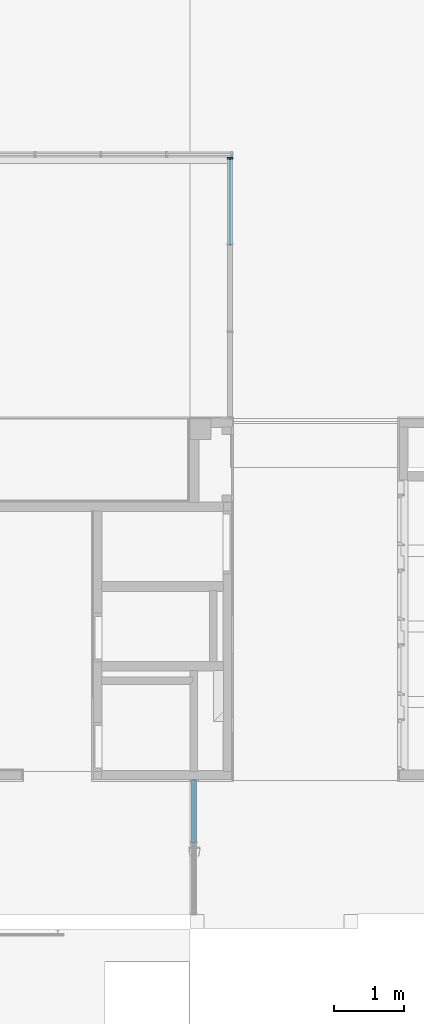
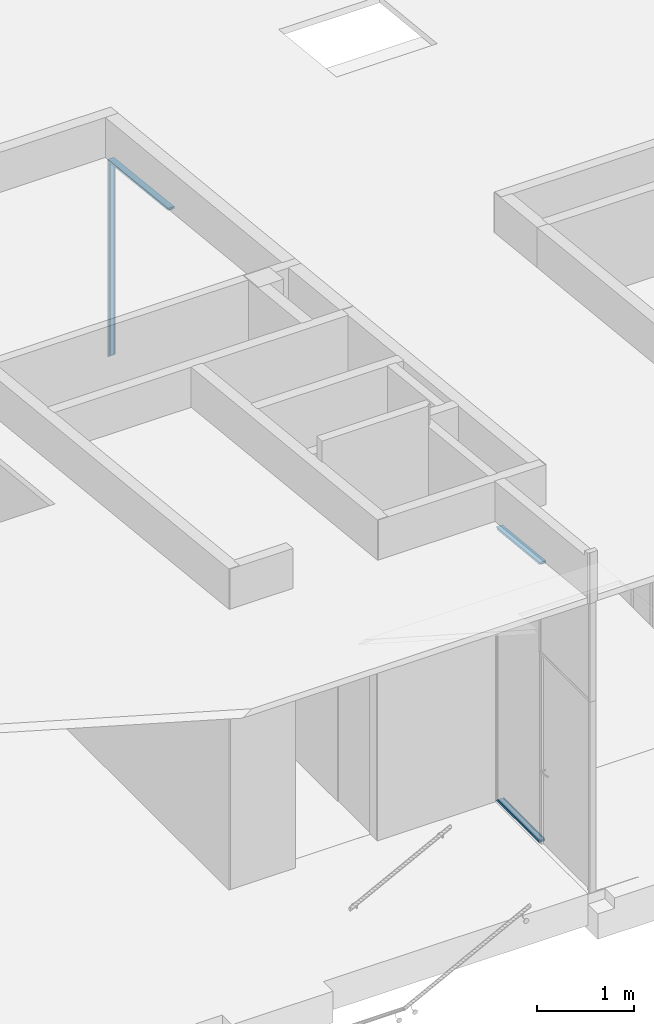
# One storey, part 20 of 43: 4 members, 2 elements without a shape of their own.
"""IFC2X3 building model written with IfcOpenShell, lengths in millimetres."""

from ifc_helpers import new_model, entity, si_unit, converted_unit, derived_unit, money_unit, direction, frame, origin_with_axes, place, context, subcontext, project, spatial, faceted_brep, material, material_list, type_object, element, aggregate, save


model = new_model("IFC2X3")

# Units and contexts
model_context = context("Model", 3, precision=0.01, world=origin_with_axes(), true_north=direction((0.0, 1.0)))
body_context = subcontext(model_context, "Body", "Model", "MODEL_VIEW")
ifc_project = project(units=[si_unit("LENGTHUNIT", "METRE", prefix="MILLI"), si_unit("AREAUNIT", "SQUARE_METRE"), si_unit("VOLUMEUNIT", "CUBIC_METRE"), converted_unit("PLANEANGLEUNIT", "DEGREE", entity("IfcPlaneAngleMeasure", 0.0174532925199), si_unit("PLANEANGLEUNIT", "RADIAN"), dimensions=[0, 0, 0, 0, 0, 0, 0]), si_unit("SOLIDANGLEUNIT", "STERADIAN"), money_unit("EUR"), converted_unit("TIMEUNIT", "Year", entity("IfcTimeMeasure", 31556926.0), si_unit("TIMEUNIT", "SECOND"), dimensions=[0, 0, 1, 0, 0, 0, 0]), si_unit("MASSUNIT", "GRAM", prefix="KILO"), si_unit("THERMODYNAMICTEMPERATUREUNIT", "DEGREE_CELSIUS"), si_unit("LUMINOUSINTENSITYUNIT", "LUMEN"), si_unit("ENERGYUNIT", "JOULE", prefix="MEGA"), derived_unit("THERMALCONDUCTANCEUNIT", [(si_unit("POWERUNIT", "WATT"), 1), (si_unit("LENGTHUNIT", "METRE"), -1), (si_unit("THERMODYNAMICTEMPERATUREUNIT", "KELVIN"), -1)]), derived_unit("SPECIFICHEATCAPACITYUNIT", [(si_unit("ENERGYUNIT", "JOULE"), 1), (si_unit("MASSUNIT", "GRAM", prefix="KILO"), -1), (si_unit("THERMODYNAMICTEMPERATUREUNIT", "KELVIN"), -1)]), derived_unit("MASSDENSITYUNIT", [(si_unit("MASSUNIT", "GRAM", prefix="KILO"), 1), (si_unit("VOLUMEUNIT", "CUBIC_METRE"), -1)])], contexts=[model_context])

# Site, building, storey
site_placement = place(None, origin_with_axes())
site = spatial("IfcSite", under=ifc_project, at=site_placement, Name="L.Koidula tn 11b", CompositionType="ELEMENT")
building_placement = place(site_placement, origin_with_axes())
building = spatial("IfcBuilding", under=site, at=building_placement, Name="Rakvere Riigigümnaasium", CompositionType="ELEMENT")
storey_placement = place(building_placement, frame((0.0, 0.0, 6665.0), z_axis=(0.0, 0.0, 1.0), x_axis=(1.0, 0.0, 0.0)))
storey = spatial("IfcBuildingStorey", under=building, at=storey_placement, Name="3.korrus +6,66", CompositionType="ELEMENT", Elevation=6665.0)

# Curtain wall, members
curtain_wall_type = type_object("IfcCurtainWallType", Name="Curtain Wall Type", PredefinedType="NOTDEFINED")
curtain_wall_1_placement = place(storey_placement, frame((47567.9999955, 27513.9554945, 0.0), z_axis=(0.0, 0.0, 1.0), x_axis=(1.0, 0.0, 0.0)))
curtain_wall_1 = element("IfcCurtainWall", 1, at=curtain_wall_1_placement, inside=storey, type_object=curtain_wall_type, Name="SKLF-27")
ifc_material_1 = material(Name="Klaasvill")
ifc_material_2 = material(Name="Teras RAL7012")
ifc_material_list = material_list([ifc_material_1, ifc_material_2])
member_type = type_object("IfcMemberType", Name="Boundary Frame 30 x 42", PredefinedType="MULLION")
member_1_placement = place(curtain_wall_1_placement, frame((0.0, -622.5, 2624.63007534), z_axis=(0.0, 0.994032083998, -0.109088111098), x_axis=(0.0, -0.109088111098, -0.994032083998)))
member_1 = element("IfcMember", 2, at=member_1_placement, type_object=member_type, material=ifc_material_list, Name="SKLF-07-raam", ObjectType="MULLION", context=body_context, shape_type="Brep", body=[
    faceted_brep([(7.49999990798, 15.000000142, -1.89357405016e-07), (13.8499999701, 15.000000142, -1.89357405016e-07), (13.8499999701, 15.000000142, 1240.06145295), (7.49999990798, 15.000000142, 1245.75270844), (7.49999990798, 29.0161444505, -1.89357405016e-07), (13.8499999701, 29.0161444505, -1.89357405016e-07), (13.8499999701, 29.0161444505, 1240.06145295), (7.49999990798, 29.0161444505, 1245.75270844)], [[[0, 1, 2, 3]], [[0, 4, 5, 1]], [[1, 5, 6, 2]], [[3, 2, 6, 7]], [[4, 0, 3, 7]], [[5, 4, 7, 6]]]),
    faceted_brep([(24.987414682, 29.0161444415, -1.89357405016e-07), (25.004489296, 27.0307503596, -1.89357405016e-07), (25.004489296, 27.0307503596, 1230.06412257), (24.987414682, 29.0161444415, 1230.07942588), (28.5126239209, 29.0161444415, -1.89357405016e-07), (28.7655837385, 28.0385325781, -1.89357405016e-07), (28.4955493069, 27.0307503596, -1.89357405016e-07), (27.75780152, 26.2930025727, -1.89357405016e-07), (26.7500193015, 26.0229681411, -1.89357405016e-07), (25.742237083, 26.2930025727, -1.89357405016e-07), (25.742237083, 26.2930025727, 1229.40290822), (26.7500193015, 26.0229681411, 1228.49967263), (27.75780152, 26.2930025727, 1227.59643704), (28.4955493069, 27.0307503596, 1226.93522269), (28.7655837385, 28.0385325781, 1226.69320144), (28.5126239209, 29.0161444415, 1226.91991939)], [[[0, 1, 2, 3]], [[0, 4, 5, 6, 7, 8, 9, 1]], [[1, 9, 10, 2]], [[3, 2, 10, 11, 12, 13, 14, 15]], [[4, 0, 3, 15]], [[5, 4, 15, 14]], [[6, 5, 14, 13]], [[7, 6, 13, 12]], [[8, 7, 12, 11]], [[9, 8, 11, 10]]]),
    faceted_brep([(7.49999990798, -24.9999997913, -1.89357405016e-07), (7.49999990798, -39.0161445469, -1.89357405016e-07), (7.49999990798, -39.0161445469, 1245.75270844), (7.49999990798, -24.9999997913, 1245.75270844), (13.8499999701, -24.9999997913, -1.89357405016e-07), (13.8499999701, -39.0161445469, -1.89357405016e-07), (13.8499999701, -39.0161445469, 1240.06145295), (13.8499999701, -24.9999997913, 1240.06145295)], [[[0, 1, 2, 3]], [[0, 4, 5, 1]], [[1, 5, 6, 2]], [[3, 2, 6, 7]], [[4, 0, 3, 7]], [[5, 4, 7, 6]]]),
    faceted_brep([(25.004489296, -37.0307503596, -1.89357405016e-07), (24.987414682, -39.0161444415, -1.89357405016e-07), (24.987414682, -39.0161444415, 1230.07942588), (25.004489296, -37.0307503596, 1230.06412257), (25.742237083, -36.2930025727, -1.89357405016e-07), (26.7500193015, -36.0229681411, -1.89357405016e-07), (27.75780152, -36.2930025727, -1.89357405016e-07), (28.4955493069, -37.0307503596, -1.89357405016e-07), (28.7655837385, -38.0385325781, -1.89357405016e-07), (28.5126239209, -39.0161444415, -1.89357405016e-07), (28.5126239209, -39.0161444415, 1226.91991939), (28.7655837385, -38.0385325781, 1226.69320144), (28.4955493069, -37.0307503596, 1226.93522269), (27.75780152, -36.2930025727, 1227.59643704), (26.7500193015, -36.0229681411, 1228.49967263), (25.742237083, -36.2930025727, 1229.40290822)], [[[0, 1, 2, 3]], [[0, 4, 5, 6, 7, 8, 9, 1]], [[1, 9, 10, 2]], [[3, 2, 10, 11, 12, 13, 14, 15]], [[4, 0, 3, 15]], [[5, 4, 15, 14]], [[6, 5, 14, 13]], [[7, 6, 13, 12]], [[8, 7, 12, 11]], [[9, 8, 11, 10]]]),
    faceted_brep([(0.0, -22.0000000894, -1.89357405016e-07), (29.5999996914, -22.0000000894, -1.89357405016e-07), (29.5999996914, -22.0000000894, 1225.94534722), (0.0, -22.0000000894, 1252.47466359), (0.0, 12.0000000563, -1.89357405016e-07), (29.5999996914, 12.0000000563, -1.89357405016e-07), (1.9999999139, 10.0000001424, -1.89357405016e-07), (1.9999999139, -20.0000001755, -1.89357405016e-07), (18.7999996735, -20.0000001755, -1.89357405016e-07), (18.7999996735, 10.0000001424, -1.89357405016e-07), (29.5999996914, 12.0000000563, 1225.94534722), (0.0, 12.0000000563, 1252.47466359), (1.9999999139, 10.0000001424, 1250.68214227), (18.7999996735, 10.0000001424, 1235.62496277), (18.7999996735, -20.0000001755, 1235.62496277), (1.9999999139, -20.0000001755, 1250.68214227)], [[[0, 1, 2, 3]], [[0, 4, 5, 1], [6, 7, 8, 9]], [[1, 5, 10, 2]], [[3, 2, 10, 11], [12, 13, 14, 15]], [[4, 0, 3, 11]], [[5, 4, 11, 10]], [[7, 6, 12, 15]], [[8, 7, 15, 14]], [[9, 8, 14, 13]], [[6, 9, 13, 12]]]),
    faceted_brep([(0.0, 12.0, -1.89357405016e-07), (29.5999996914, 12.0000000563, -1.89357405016e-07), (29.5999996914, 12.0000000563, 1225.94534722), (0.0, 12.0, 1252.47466359), (0.0, 32.0, -1.89357405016e-07), (30.0000193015, 32.0, -1.89357405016e-07), (30.0000193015, 29.0161444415, -1.89357405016e-07), (28.5126239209, 29.0161444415, -1.89357405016e-07), (24.987414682, 29.0161444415, -1.89357405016e-07), (13.8499999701, 29.0161444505, -1.89357405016e-07), (7.49999999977, 29.0161444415, -1.89357405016e-07), (7.49999999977, 15.0, -1.89357405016e-07), (13.8499999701, 15.000000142, -1.89357405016e-07), (30.0000193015, 15.0, -1.89357405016e-07), (30.0000193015, 12.0, -1.89357405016e-07), (30.0000193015, 12.0, 1225.58682536), (30.0000193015, 15.0, 1225.58682536), (13.8499999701, 15.000000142, 1240.06145295), (7.49999999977, 15.0, 1245.75270836), (7.49999999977, 29.0161444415, 1245.75270836), (13.8499999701, 29.0161444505, 1240.06145295), (24.987414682, 29.0161444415, 1230.07942588), (28.5126239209, 29.0161444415, 1226.91991939), (30.0000193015, 29.0161444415, 1225.58682536), (30.0000193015, 32.0, 1225.58682536), (0.0, 32.0, 1252.47466359)], [[[0, 1, 2, 3]], [[0, 4, 5, 6, 7, 8, 9, 10, 11, 12, 13, 14, 1]], [[1, 14, 15, 2]], [[3, 2, 15, 16, 17, 18, 19, 20, 21, 22, 23, 24, 25]], [[4, 0, 3, 25]], [[5, 4, 25, 24]], [[6, 5, 24, 23]], [[7, 6, 23, 22]], [[8, 7, 22, 21]], [[9, 8, 21, 20]], [[10, 9, 20, 19]], [[11, 10, 19, 18]], [[12, 11, 18, 17]], [[13, 12, 17, 16]], [[14, 13, 16, 15]]]),
    faceted_brep([(0.0, -22.0, -1.89357405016e-07), (0.0, -42.0, -1.89357405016e-07), (0.0, -42.0, 1252.47466359), (0.0, -22.0, 1252.47466359), (29.5999996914, -22.0000000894, -1.89357405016e-07), (30.0000193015, -22.0, -1.89357405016e-07), (30.0000193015, -25.0, -1.89357405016e-07), (13.8499999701, -24.9999997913, -1.89357405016e-07), (7.49999999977, -25.0, -1.89357405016e-07), (7.49999999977, -39.0161444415, -1.89357405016e-07), (13.8499999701, -39.0161445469, -1.89357405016e-07), (24.987414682, -39.0161444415, -1.89357405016e-07), (28.5126239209, -39.0161444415, -1.89357405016e-07), (30.0000193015, -39.0161444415, -1.89357405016e-07), (30.0000193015, -42.0, -1.89357405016e-07), (30.0000193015, -42.0, 1225.58682536), (30.0000193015, -39.0161444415, 1225.58682536), (28.5126239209, -39.0161444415, 1226.91991939), (24.987414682, -39.0161444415, 1230.07942588), (13.8499999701, -39.0161445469, 1240.06145295), (7.49999999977, -39.0161444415, 1245.75270836), (7.49999999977, -25.0, 1245.75270836), (13.8499999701, -24.9999997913, 1240.06145295), (30.0000193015, -25.0, 1225.58682536), (30.0000193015, -22.0, 1225.58682536), (29.5999996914, -22.0000000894, 1225.94534722)], [[[0, 1, 2, 3]], [[0, 4, 5, 6, 7, 8, 9, 10, 11, 12, 13, 14, 1]], [[1, 14, 15, 2]], [[3, 2, 15, 16, 17, 18, 19, 20, 21, 22, 23, 24, 25]], [[4, 0, 3, 25]], [[5, 4, 25, 24]], [[6, 5, 24, 23]], [[7, 6, 23, 22]], [[8, 7, 22, 21]], [[9, 8, 21, 20]], [[10, 9, 20, 19]], [[11, 10, 19, 18]], [[12, 11, 18, 17]], [[13, 12, 17, 16]], [[14, 13, 16, 15]]]),
])
member_2_placement = place(curtain_wall_1_placement, frame((0.0, 622.5, 0.0), z_axis=(0.0, 0.0, 1.0), x_axis=(0.0, 1.0, 0.0)))
member_2 = element("IfcMember", 3, at=member_2_placement, type_object=member_type, material=ifc_material_list, Name="SKLF-00-raam", ObjectType="MULLION", context=body_context, shape_type="Brep", body=[
    faceted_brep([(-13.8499999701, 15.000000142, 13.8499999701), (-7.49999990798, 15.000000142, 7.49999990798), (-7.49999990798, 15.000000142, 2481.27802494), (-13.8499999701, 15.000000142, 2475.58676946), (-13.8499999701, 29.0161444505, 13.8499999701), (-7.49999990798, 29.0161444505, 7.49999990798), (-7.49999990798, 29.0161444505, 2481.27802494), (-13.8499999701, 29.0161444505, 2475.58676946)], [[[0, 1, 2, 3]], [[1, 0, 4, 5]], [[1, 5, 6, 2]], [[2, 6, 7, 3]], [[4, 0, 3, 7]], [[5, 4, 7, 6]]]),
    faceted_brep([(-25.004489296, 27.0307503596, 25.004489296), (-24.987414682, 29.0161444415, 24.987414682), (-24.987414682, 29.0161444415, 2465.60474238), (-25.004489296, 27.0307503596, 2465.58943908), (-25.742237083, 26.2930025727, 25.742237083), (-26.7500193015, 26.0229681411, 26.7500193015), (-27.75780152, 26.2930025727, 27.75780152), (-28.4955493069, 27.0307503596, 28.4955493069), (-28.7655837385, 28.0385325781, 28.7655837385), (-28.5126239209, 29.0161444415, 28.5126239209), (-28.5126239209, 29.0161444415, 2462.44523589), (-28.7655837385, 28.0385325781, 2462.21851795), (-28.4955493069, 27.0307503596, 2462.4605392), (-27.75780152, 26.2930025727, 2463.12175354), (-26.7500193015, 26.0229681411, 2464.02498914), (-25.742237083, 26.2930025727, 2464.92822473)], [[[0, 1, 2, 3]], [[1, 0, 4, 5, 6, 7, 8, 9]], [[1, 9, 10, 2]], [[2, 10, 11, 12, 13, 14, 15, 3]], [[4, 0, 3, 15]], [[5, 4, 15, 14]], [[6, 5, 14, 13]], [[7, 6, 13, 12]], [[8, 7, 12, 11]], [[9, 8, 11, 10]]]),
    faceted_brep([(-7.49999990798, -39.0161445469, 7.49999990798), (-7.49999990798, -24.9999997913, 7.49999990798), (-7.49999990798, -24.9999997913, 2481.27802494), (-7.49999990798, -39.0161445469, 2481.27802494), (-13.8499999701, -39.0161445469, 13.8499999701), (-13.8499999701, -24.9999997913, 13.8499999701), (-13.8499999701, -24.9999997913, 2475.58676946), (-13.8499999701, -39.0161445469, 2475.58676946)], [[[0, 1, 2, 3]], [[1, 0, 4, 5]], [[1, 5, 6, 2]], [[2, 6, 7, 3]], [[4, 0, 3, 7]], [[5, 4, 7, 6]]]),
    faceted_brep([(-24.987414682, -39.0161444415, 24.987414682), (-25.004489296, -37.0307503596, 25.004489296), (-25.004489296, -37.0307503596, 2465.58943908), (-24.987414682, -39.0161444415, 2465.60474238), (-28.5126239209, -39.0161444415, 28.5126239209), (-28.7655837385, -38.0385325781, 28.7655837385), (-28.4955493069, -37.0307503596, 28.4955493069), (-27.75780152, -36.2930025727, 27.75780152), (-26.7500193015, -36.0229681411, 26.7500193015), (-25.742237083, -36.2930025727, 25.742237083), (-25.742237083, -36.2930025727, 2464.92822473), (-26.7500193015, -36.0229681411, 2464.02498914), (-27.75780152, -36.2930025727, 2463.12175354), (-28.4955493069, -37.0307503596, 2462.4605392), (-28.7655837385, -38.0385325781, 2462.21851795), (-28.5126239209, -39.0161444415, 2462.44523589)], [[[0, 1, 2, 3]], [[1, 0, 4, 5, 6, 7, 8, 9]], [[1, 9, 10, 2]], [[2, 10, 11, 12, 13, 14, 15, 3]], [[4, 0, 3, 15]], [[5, 4, 15, 14]], [[6, 5, 14, 13]], [[7, 6, 13, 12]], [[8, 7, 12, 11]], [[9, 8, 11, 10]]]),
    faceted_brep([(-29.5999996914, -22.0000000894, 29.5999996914), (0.0, -22.0000000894, 0.0), (0.0, -22.0000000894, 2487.99998009), (-29.5999996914, -22.0000000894, 2461.47066372), (-29.5999996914, 12.0000000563, 29.5999996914), (0.0, 12.0000000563, 0.0), (-1.9999999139, 10.0000001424, 1.9999999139), (-18.7999996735, 10.0000001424, 18.7999996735), (-18.7999996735, -20.0000001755, 18.7999996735), (-1.9999999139, -20.0000001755, 1.9999999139), (0.0, 12.0000000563, 2487.99998009), (-29.5999996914, 12.0000000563, 2461.47066372), (-1.9999999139, 10.0000001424, 2486.20745877), (-1.9999999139, -20.0000001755, 2486.20745877), (-18.7999996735, -20.0000001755, 2471.15027927), (-18.7999996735, 10.0000001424, 2471.15027927)], [[[0, 1, 2, 3]], [[1, 0, 4, 5], [6, 7, 8, 9]], [[1, 5, 10, 2]], [[2, 10, 11, 3], [12, 13, 14, 15]], [[4, 0, 3, 11]], [[5, 4, 11, 10]], [[7, 6, 12, 15]], [[8, 7, 15, 14]], [[9, 8, 14, 13]], [[6, 9, 13, 12]]]),
    faceted_brep([(-29.5999996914, 12.0000000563, 29.5999996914), (0.0, 12.0, 0.0), (0.0, 12.0, 2487.99998009), (-29.5999996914, 12.0000000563, 2461.47066372), (-30.0000193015, 12.0, 30.0000193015), (-30.0000193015, 15.0, 30.0000193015), (-13.8499999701, 15.000000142, 13.8499999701), (-7.49999999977, 15.0, 7.49999999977), (-7.49999999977, 29.0161444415, 7.49999999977), (-13.8499999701, 29.0161444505, 13.8499999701), (-24.987414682, 29.0161444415, 24.987414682), (-28.5126239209, 29.0161444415, 28.5126239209), (-30.0000193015, 29.0161444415, 30.0000193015), (-30.0000193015, 32.0, 30.0000193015), (0.0, 32.0, 0.0), (0.0, 32.0, 2487.99998009), (-30.0000193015, 32.0, 2461.11214187), (-30.0000193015, 29.0161444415, 2461.11214187), (-28.5126239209, 29.0161444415, 2462.44523589), (-24.987414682, 29.0161444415, 2465.60474238), (-13.8499999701, 29.0161444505, 2475.58676946), (-7.49999999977, 29.0161444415, 2481.27802486), (-7.49999999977, 15.0, 2481.27802486), (-13.8499999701, 15.000000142, 2475.58676946), (-30.0000193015, 15.0, 2461.11214187), (-30.0000193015, 12.0, 2461.11214187)], [[[0, 1, 2, 3]], [[1, 0, 4, 5, 6, 7, 8, 9, 10, 11, 12, 13, 14]], [[1, 14, 15, 2]], [[2, 15, 16, 17, 18, 19, 20, 21, 22, 23, 24, 25, 3]], [[4, 0, 3, 25]], [[5, 4, 25, 24]], [[6, 5, 24, 23]], [[7, 6, 23, 22]], [[8, 7, 22, 21]], [[9, 8, 21, 20]], [[10, 9, 20, 19]], [[11, 10, 19, 18]], [[12, 11, 18, 17]], [[13, 12, 17, 16]], [[14, 13, 16, 15]]]),
    faceted_brep([(0.0, -42.0, 0.0), (0.0, -22.0, 0.0), (0.0, -22.0, 2487.99998009), (0.0, -42.0, 2487.99998009), (-30.0000193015, -42.0, 30.0000193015), (-30.0000193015, -39.0161444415, 30.0000193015), (-28.5126239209, -39.0161444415, 28.5126239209), (-24.987414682, -39.0161444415, 24.987414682), (-13.8499999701, -39.0161445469, 13.8499999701), (-7.49999999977, -39.0161444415, 7.49999999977), (-7.49999999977, -25.0, 7.49999999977), (-13.8499999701, -24.9999997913, 13.8499999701), (-30.0000193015, -25.0, 30.0000193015), (-30.0000193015, -22.0, 30.0000193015), (-29.5999996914, -22.0000000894, 29.5999996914), (-29.5999996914, -22.0000000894, 2461.47066372), (-30.0000193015, -22.0, 2461.11214187), (-30.0000193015, -25.0, 2461.11214187), (-13.8499999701, -24.9999997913, 2475.58676946), (-7.49999999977, -25.0, 2481.27802486), (-7.49999999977, -39.0161444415, 2481.27802486), (-13.8499999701, -39.0161445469, 2475.58676946), (-24.987414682, -39.0161444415, 2465.60474238), (-28.5126239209, -39.0161444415, 2462.44523589), (-30.0000193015, -39.0161444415, 2461.11214187), (-30.0000193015, -42.0, 2461.11214187)], [[[0, 1, 2, 3]], [[1, 0, 4, 5, 6, 7, 8, 9, 10, 11, 12, 13, 14]], [[1, 14, 15, 2]], [[2, 15, 16, 17, 18, 19, 20, 21, 22, 23, 24, 25, 3]], [[4, 0, 3, 25]], [[5, 4, 25, 24]], [[6, 5, 24, 23]], [[7, 6, 23, 22]], [[8, 7, 22, 21]], [[9, 8, 21, 20]], [[10, 9, 20, 19]], [[11, 10, 19, 18]], [[12, 11, 18, 17]], [[13, 12, 17, 16]], [[14, 13, 16, 15]]]),
])
aggregate(curtain_wall_1, [member_1, member_2])

curtain_wall_2_placement = place(storey_placement, frame((47063.0738161, 17825.4555095, 0.0), z_axis=(0.0, 0.0, 1.0), x_axis=(1.0, 0.0, 0.0)))
curtain_wall_2 = element("IfcCurtainWall", 4, at=curtain_wall_2_placement, inside=storey, type_object=curtain_wall_type, Name="SKLF-24")
member_3_placement = place(curtain_wall_2_placement, frame((0.0, 532.000005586, 0.0), z_axis=(0.0, 1.0, 0.0), x_axis=(0.0, 0.0, 1.0)))
member_3 = element("IfcMember", 5, at=member_3_placement, type_object=member_type, material=ifc_material_list, Name="SKLF-16-raam", ObjectType="MULLION", context=body_context, shape_type="Brep", body=[
    faceted_brep([(7.49999990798, 15.000000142, 0.0), (13.8499999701, 15.000000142, 0.0), (13.8499999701, 15.000000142, 869.134185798), (7.49999990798, 15.000000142, 875.484185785), (7.49999990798, 29.0161444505, 0.0), (13.8499999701, 29.0161444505, 0.0), (13.8499999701, 29.0161444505, 869.134185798), (7.49999990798, 29.0161444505, 875.484185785)], [[[0, 1, 2, 3]], [[0, 4, 5, 1]], [[1, 5, 6, 2]], [[3, 2, 6, 7]], [[4, 0, 3, 7]], [[5, 4, 7, 6]]]),
    faceted_brep([(24.987414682, 29.0161444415, 0.0), (25.004489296, 27.0307503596, 0.0), (25.004489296, 27.0307503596, 857.979696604), (24.987414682, 29.0161444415, 857.996771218), (28.5126239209, 29.0161444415, 0.0), (28.7655837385, 28.0385325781, 0.0), (28.4955493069, 27.0307503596, 0.0), (27.75780152, 26.2930025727, 0.0), (26.7500193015, 26.0229681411, 0.0), (25.742237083, 26.2930025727, 0.0), (25.742237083, 26.2930025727, 857.241948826), (26.7500193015, 26.0229681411, 856.234166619), (27.75780152, 26.2930025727, 855.226384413), (28.4955493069, 27.0307503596, 854.488636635), (28.7655837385, 28.0385325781, 854.218602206), (28.5126239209, 29.0161444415, 854.471562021)], [[[0, 1, 2, 3]], [[0, 4, 5, 6, 7, 8, 9, 1]], [[1, 9, 10, 2]], [[3, 2, 10, 11, 12, 13, 14, 15]], [[4, 0, 3, 15]], [[5, 4, 15, 14]], [[6, 5, 14, 13]], [[7, 6, 13, 12]], [[8, 7, 12, 11]], [[9, 8, 11, 10]]]),
    faceted_brep([(7.49999990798, -24.9999997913, 0.0), (7.49999990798, -39.0161445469, 0.0), (7.49999990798, -39.0161445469, 875.484185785), (7.49999990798, -24.9999997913, 875.484185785), (13.8499999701, -24.9999997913, 0.0), (13.8499999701, -39.0161445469, 0.0), (13.8499999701, -39.0161445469, 869.134185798), (13.8499999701, -24.9999997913, 869.134185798)], [[[0, 1, 2, 3]], [[0, 4, 5, 1]], [[1, 5, 6, 2]], [[3, 2, 6, 7]], [[4, 0, 3, 7]], [[5, 4, 7, 6]]]),
    faceted_brep([(25.004489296, -37.0307503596, 0.0), (24.987414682, -39.0161444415, 0.0), (24.987414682, -39.0161444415, 857.996771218), (25.004489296, -37.0307503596, 857.979696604), (25.742237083, -36.2930025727, 0.0), (26.7500193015, -36.0229681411, 0.0), (27.75780152, -36.2930025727, 0.0), (28.4955493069, -37.0307503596, 0.0), (28.7655837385, -38.0385325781, 0.0), (28.5126239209, -39.0161444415, 0.0), (28.5126239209, -39.0161444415, 854.471562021), (28.7655837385, -38.0385325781, 854.218602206), (28.4955493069, -37.0307503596, 854.488636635), (27.75780152, -36.2930025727, 855.226384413), (26.7500193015, -36.0229681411, 856.234166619), (25.742237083, -36.2930025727, 857.241948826)], [[[0, 1, 2, 3]], [[0, 4, 5, 6, 7, 8, 9, 1]], [[1, 9, 10, 2]], [[3, 2, 10, 11, 12, 13, 14, 15]], [[4, 0, 3, 15]], [[5, 4, 15, 14]], [[6, 5, 14, 13]], [[7, 6, 13, 12]], [[8, 7, 12, 11]], [[9, 8, 11, 10]]]),
    faceted_brep([(0.0, -22.0000000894, 0.0), (29.5999996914, -22.0000000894, 0.0), (29.5999996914, -22.0000000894, 853.384186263), (0.0, -22.0000000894, 882.984185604), (0.0, 12.0000000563, 0.0), (29.5999996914, 12.0000000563, 0.0), (1.9999999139, 10.0000001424, 0.0), (1.9999999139, -20.0000001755, 0.0), (18.7999996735, -20.0000001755, 0.0), (18.7999996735, 10.0000001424, 0.0), (29.5999996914, 12.0000000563, 853.384186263), (0.0, 12.0000000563, 882.984185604), (1.9999999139, 10.0000001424, 880.984185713), (18.7999996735, 10.0000001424, 864.184186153), (18.7999996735, -20.0000001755, 864.184186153), (1.9999999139, -20.0000001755, 880.984185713)], [[[0, 1, 2, 3]], [[0, 4, 5, 1], [6, 7, 8, 9]], [[1, 5, 10, 2]], [[3, 2, 10, 11], [12, 13, 14, 15]], [[4, 0, 3, 11]], [[5, 4, 11, 10]], [[7, 6, 12, 15]], [[8, 7, 15, 14]], [[9, 8, 14, 13]], [[6, 9, 13, 12]]]),
    faceted_brep([(0.0, 12.0, 0.0), (29.5999996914, 12.0000000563, 0.0), (29.5999996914, 12.0000000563, 853.384186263), (0.0, 12.0, 882.984185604), (0.0, 32.0, 0.0), (30.0000193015, 32.0, 0.0), (30.0000193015, 29.0161444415, 0.0), (28.5126239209, 29.0161444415, 0.0), (24.987414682, 29.0161444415, 0.0), (13.8499999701, 29.0161444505, 0.0), (7.49999999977, 29.0161444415, 0.0), (7.49999999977, 15.0, 0.0), (13.8499999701, 15.000000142, 0.0), (30.0000193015, 15.0, 0.0), (30.0000193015, 12.0, 0.0), (30.0000193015, 12.0, 852.984166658), (30.0000193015, 15.0, 852.984166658), (13.8499999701, 15.000000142, 869.134185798), (7.49999999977, 15.0, 875.484185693), (7.49999999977, 29.0161444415, 875.484185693), (13.8499999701, 29.0161444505, 869.134185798), (24.987414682, 29.0161444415, 857.996771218), (28.5126239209, 29.0161444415, 854.471562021), (30.0000193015, 29.0161444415, 852.984166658), (30.0000193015, 32.0, 852.984166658), (0.0, 32.0, 882.984185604)], [[[0, 1, 2, 3]], [[0, 4, 5, 6, 7, 8, 9, 10, 11, 12, 13, 14, 1]], [[1, 14, 15, 2]], [[3, 2, 15, 16, 17, 18, 19, 20, 21, 22, 23, 24, 25]], [[4, 0, 3, 25]], [[5, 4, 25, 24]], [[6, 5, 24, 23]], [[7, 6, 23, 22]], [[8, 7, 22, 21]], [[9, 8, 21, 20]], [[10, 9, 20, 19]], [[11, 10, 19, 18]], [[12, 11, 18, 17]], [[13, 12, 17, 16]], [[14, 13, 16, 15]]]),
    faceted_brep([(0.0, -22.0, 0.0), (0.0, -42.0, 0.0), (0.0, -42.0, 882.984185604), (0.0, -22.0, 882.984185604), (29.5999996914, -22.0000000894, 0.0), (30.0000193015, -22.0, 0.0), (30.0000193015, -25.0, 0.0), (13.8499999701, -24.9999997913, 0.0), (7.49999999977, -25.0, 0.0), (7.49999999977, -39.0161444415, 0.0), (13.8499999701, -39.0161445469, 0.0), (24.987414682, -39.0161444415, 0.0), (28.5126239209, -39.0161444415, 0.0), (30.0000193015, -39.0161444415, 0.0), (30.0000193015, -42.0, 0.0), (30.0000193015, -42.0, 852.984166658), (30.0000193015, -39.0161444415, 852.984166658), (28.5126239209, -39.0161444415, 854.471562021), (24.987414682, -39.0161444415, 857.996771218), (13.8499999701, -39.0161445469, 869.134185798), (7.49999999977, -39.0161444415, 875.484185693), (7.49999999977, -25.0, 875.484185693), (13.8499999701, -24.9999997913, 869.134185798), (30.0000193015, -25.0, 852.984166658), (30.0000193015, -22.0, 852.984166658), (29.5999996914, -22.0000000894, 853.384186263)], [[[0, 1, 2, 3]], [[0, 4, 5, 6, 7, 8, 9, 10, 11, 12, 13, 14, 1]], [[1, 14, 15, 2]], [[3, 2, 15, 16, 17, 18, 19, 20, 21, 22, 23, 24, 25]], [[4, 0, 3, 25]], [[5, 4, 25, 24]], [[6, 5, 24, 23]], [[7, 6, 23, 22]], [[8, 7, 22, 21]], [[9, 8, 21, 20]], [[10, 9, 20, 19]], [[11, 10, 19, 18]], [[12, 11, 18, 17]], [[13, 12, 17, 16]], [[14, 13, 16, 15]]]),
])
member_4_placement = place(curtain_wall_2_placement, frame((0.0, 1414.98422308, 3441.75431957), z_axis=(0.0, -0.994765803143, 0.102181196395), x_axis=(0.0, -0.102181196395, -0.994765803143)))
member_4 = element("IfcMember", 6, at=member_4_placement, type_object=member_type, material=ifc_material_list, Name="SKLF-25-raam", ObjectType="MULLION", context=body_context, shape_type="Brep", body=[
    faceted_brep([(13.8499999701, 15.000000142, 12.5002190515), (13.8499999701, 15.000000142, 904.719704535), (7.49999990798, 15.000000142, 904.719704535), (7.49999990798, 15.000000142, 6.7690716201), (13.8499999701, 29.0161444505, 12.5002190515), (13.8499999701, 29.0161444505, 904.719704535), (7.49999990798, 29.0161444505, 904.719704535), (7.49999990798, 29.0161444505, 6.7690716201)], [[[0, 1, 2, 3]], [[4, 5, 1, 0]], [[2, 1, 5, 6]], [[3, 2, 6, 7]], [[3, 7, 4, 0]], [[7, 6, 5, 4]]]),
    faceted_brep([(25.004489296, 27.0307503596, 22.5676241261), (25.004489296, 27.0307503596, 904.719704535), (24.987414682, 29.0161444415, 904.719704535), (24.987414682, 29.0161444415, 22.5522135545), (25.742237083, 26.2930025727, 23.2334731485), (25.742237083, 26.2930025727, 904.719704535), (26.7500193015, 26.0229681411, 904.719704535), (27.75780152, 26.2930025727, 904.719704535), (28.4955493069, 27.0307503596, 904.719704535), (28.7655837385, 28.0385325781, 904.719704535), (28.5126239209, 29.0161444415, 904.719704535), (28.5126239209, 29.0161444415, 25.7338661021), (28.7655837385, 28.0385325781, 25.9621731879), (28.4955493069, 27.0307503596, 25.7184555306), (27.75780152, 26.2930025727, 25.0526065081), (26.7500193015, 26.0229681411, 24.1430398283)], [[[0, 1, 2, 3]], [[4, 5, 1, 0]], [[2, 1, 5, 6, 7, 8, 9, 10]], [[3, 2, 10, 11]], [[3, 11, 12, 13, 14, 15, 4, 0]], [[15, 6, 5, 4]], [[14, 7, 6, 15]], [[13, 8, 7, 14]], [[12, 9, 8, 13]], [[11, 10, 9, 12]]]),
    faceted_brep([(7.49999990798, -39.0161445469, 6.7690716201), (7.49999990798, -39.0161445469, 904.719704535), (7.49999990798, -24.9999997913, 904.719704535), (7.49999990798, -24.9999997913, 6.7690716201), (13.8499999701, -39.0161445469, 12.5002190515), (13.8499999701, -39.0161445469, 904.719704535), (13.8499999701, -24.9999997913, 904.719704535), (13.8499999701, -24.9999997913, 12.5002190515)], [[[0, 1, 2, 3]], [[4, 5, 1, 0]], [[2, 1, 5, 6]], [[3, 2, 6, 7]], [[3, 7, 4, 0]], [[7, 6, 5, 4]]]),
    faceted_brep([(24.987414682, -39.0161444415, 22.5522135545), (24.987414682, -39.0161444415, 904.719704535), (25.004489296, -37.0307503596, 904.719704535), (25.004489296, -37.0307503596, 22.5676241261), (28.5126239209, -39.0161444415, 25.7338661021), (28.5126239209, -39.0161444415, 904.719704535), (28.7655837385, -38.0385325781, 904.719704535), (28.4955493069, -37.0307503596, 904.719704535), (27.75780152, -36.2930025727, 904.719704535), (26.7500193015, -36.0229681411, 904.719704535), (25.742237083, -36.2930025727, 904.719704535), (25.742237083, -36.2930025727, 23.2334731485), (26.7500193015, -36.0229681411, 24.1430398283), (27.75780152, -36.2930025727, 25.0526065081), (28.4955493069, -37.0307503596, 25.7184555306), (28.7655837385, -38.0385325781, 25.9621731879)], [[[0, 1, 2, 3]], [[4, 5, 1, 0]], [[2, 1, 5, 6, 7, 8, 9, 10]], [[3, 2, 10, 11]], [[3, 11, 12, 13, 14, 15, 4, 0]], [[15, 6, 5, 4]], [[14, 7, 6, 15]], [[13, 8, 7, 14]], [[12, 9, 8, 13]], [[11, 10, 9, 12]]]),
    faceted_brep([(29.5999996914, -22.0000000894, 26.7152693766), (29.5999996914, -22.0000000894, 904.719704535), (0.0, -22.0000000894, 904.719704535), (0.0, -22.0000000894, 0.0), (29.5999996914, 12.0000000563, 26.7152693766), (29.5999996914, 12.0000000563, 904.719704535), (0.0, 12.0000000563, 904.719704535), (1.9999999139, 10.0000001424, 904.719704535), (18.7999996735, 10.0000001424, 904.719704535), (18.7999996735, -20.0000001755, 904.719704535), (1.9999999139, -20.0000001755, 904.719704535), (0.0, 12.0000000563, 0.0), (1.9999999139, 10.0000001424, 1.8050857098), (1.9999999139, -20.0000001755, 1.8050857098), (18.7999996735, -20.0000001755, 16.9678061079), (18.7999996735, 10.0000001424, 16.9678061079)], [[[0, 1, 2, 3]], [[4, 5, 1, 0]], [[2, 1, 5, 6], [7, 8, 9, 10]], [[3, 2, 6, 11]], [[3, 11, 4, 0], [12, 13, 14, 15]], [[11, 6, 5, 4]], [[15, 8, 7, 12]], [[14, 9, 8, 15]], [[13, 10, 9, 14]], [[12, 7, 10, 13]]]),
    faceted_brep([(29.5999996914, 12.0000000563, 26.7152693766), (29.5999996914, 12.0000000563, 904.719704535), (0.0, 12.0, 904.719704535), (0.0, 12.0, 0.0), (30.0000193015, 12.0, 27.076304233), (30.0000193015, 12.0, 904.719704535), (30.0000193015, 15.0, 904.719704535), (13.8499999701, 15.000000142, 904.719704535), (7.49999999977, 15.0, 904.719704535), (7.49999999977, 29.0161444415, 904.719704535), (13.8499999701, 29.0161444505, 904.719704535), (24.987414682, 29.0161444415, 904.719704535), (28.5126239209, 29.0161444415, 904.719704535), (30.0000193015, 29.0161444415, 904.719704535), (30.0000193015, 32.0, 904.719704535), (0.0, 32.0, 904.719704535), (0.0, 32.0, 0.0), (30.0000193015, 32.0, 27.076304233), (30.0000193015, 29.0161444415, 27.076304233), (28.5126239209, 29.0161444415, 25.7338661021), (24.987414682, 29.0161444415, 22.5522135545), (13.8499999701, 29.0161444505, 12.5002190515), (7.49999999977, 29.0161444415, 6.76907170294), (7.49999999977, 15.0, 6.76907170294), (13.8499999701, 15.000000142, 12.5002190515), (30.0000193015, 15.0, 27.076304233)], [[[0, 1, 2, 3]], [[4, 5, 1, 0]], [[2, 1, 5, 6, 7, 8, 9, 10, 11, 12, 13, 14, 15]], [[3, 2, 15, 16]], [[3, 16, 17, 18, 19, 20, 21, 22, 23, 24, 25, 4, 0]], [[25, 6, 5, 4]], [[24, 7, 6, 25]], [[23, 8, 7, 24]], [[22, 9, 8, 23]], [[21, 10, 9, 22]], [[20, 11, 10, 21]], [[19, 12, 11, 20]], [[18, 13, 12, 19]], [[17, 14, 13, 18]], [[16, 15, 14, 17]]]),
    faceted_brep([(0.0, -42.0, 0.0), (0.0, -42.0, 904.719704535), (0.0, -22.0, 904.719704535), (0.0, -22.0, 0.0), (30.0000193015, -42.0, 27.076304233), (30.0000193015, -42.0, 904.719704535), (30.0000193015, -39.0161444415, 904.719704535), (28.5126239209, -39.0161444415, 904.719704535), (24.987414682, -39.0161444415, 904.719704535), (13.8499999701, -39.0161445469, 904.719704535), (7.49999999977, -39.0161444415, 904.719704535), (7.49999999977, -25.0, 904.719704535), (13.8499999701, -24.9999997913, 904.719704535), (30.0000193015, -25.0, 904.719704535), (30.0000193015, -22.0, 904.719704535), (29.5999996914, -22.0000000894, 904.719704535), (29.5999996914, -22.0000000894, 26.7152693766), (30.0000193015, -22.0, 27.076304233), (30.0000193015, -25.0, 27.076304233), (13.8499999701, -24.9999997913, 12.5002190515), (7.49999999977, -25.0, 6.76907170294), (7.49999999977, -39.0161444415, 6.76907170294), (13.8499999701, -39.0161445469, 12.5002190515), (24.987414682, -39.0161444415, 22.5522135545), (28.5126239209, -39.0161444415, 25.7338661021), (30.0000193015, -39.0161444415, 27.076304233)], [[[0, 1, 2, 3]], [[4, 5, 1, 0]], [[2, 1, 5, 6, 7, 8, 9, 10, 11, 12, 13, 14, 15]], [[3, 2, 15, 16]], [[3, 16, 17, 18, 19, 20, 21, 22, 23, 24, 25, 4, 0]], [[25, 6, 5, 4]], [[24, 7, 6, 25]], [[23, 8, 7, 24]], [[22, 9, 8, 23]], [[21, 10, 9, 22]], [[20, 11, 10, 21]], [[19, 12, 11, 20]], [[18, 13, 12, 19]], [[17, 14, 13, 18]], [[16, 15, 14, 17]]]),
])
aggregate(curtain_wall_2, [member_3, member_4])

save(model, "model.ifc")
